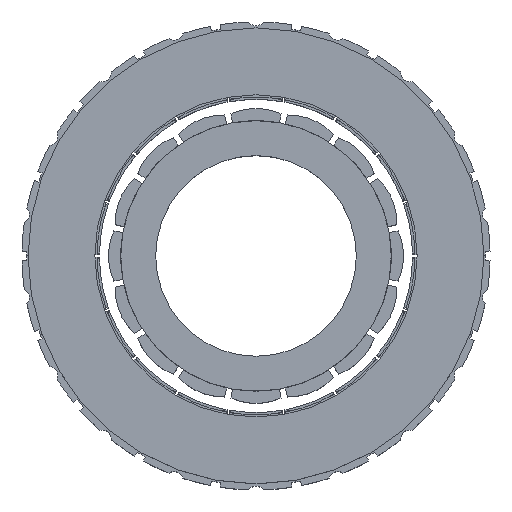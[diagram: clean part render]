
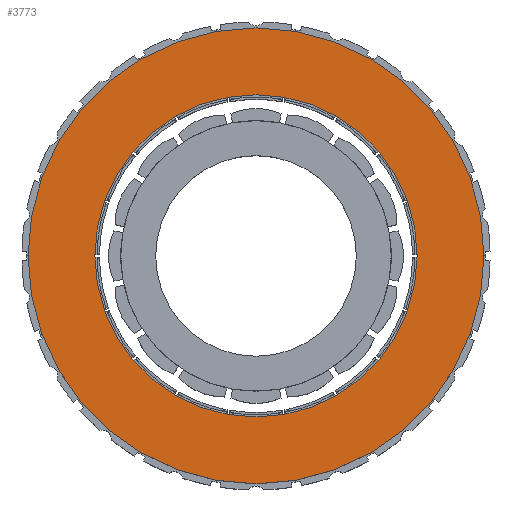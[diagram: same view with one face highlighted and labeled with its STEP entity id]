
A CAD part, top view. The second image highlights one B-rep face of the part: STEP entity #3773.
In plain terms, the highlighted planar face has unit normal (0, 0, 1).
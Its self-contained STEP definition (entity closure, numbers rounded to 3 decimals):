
#1 = CARTESIAN_POINT ( 'NONE',  ( 0., 0., 6.5 ) ) ;
#20 = DIRECTION ( 'NONE',  ( 0., 0., 1. ) ) ;
#45 = CIRCLE ( 'NONE', #4743, 37.5 ) ;
#64 = CARTESIAN_POINT ( 'NONE',  ( 26.5, 0., 6.5 ) ) ;
#460 = FACE_BOUND ( 'NONE', #4216, .T. ) ;
#536 = DIRECTION ( 'NONE',  ( 1., 0., 0. ) ) ;
#580 = CIRCLE ( 'NONE', #4035, 37.5 ) ;
#586 = ORIENTED_EDGE ( 'NONE', *, *, #3466, .T. ) ;
#759 = VERTEX_POINT ( 'NONE', #64 ) ;
#862 = CARTESIAN_POINT ( 'NONE',  ( 0., 0., 6.5 ) ) ;
#976 = AXIS2_PLACEMENT_3D ( 'NONE', #2927, #3306, #536 ) ;
#1005 = EDGE_CURVE ( 'NONE', #3577, #759, #3964, .T. ) ;
#1100 = CARTESIAN_POINT ( 'NONE',  ( 0., 0., 6.5 ) ) ;
#1157 = DIRECTION ( 'NONE',  ( 1., 0., 0. ) ) ;
#1302 = EDGE_CURVE ( 'NONE', #759, #3577, #4522, .T. ) ;
#1459 = EDGE_CURVE ( 'NONE', #4098, #4181, #580, .T. ) ;
#1512 = AXIS2_PLACEMENT_3D ( 'NONE', #1, #3570, #1157 ) ;
#1559 = DIRECTION ( 'NONE',  ( 1., 0., 0. ) ) ;
#1872 = EDGE_LOOP ( 'NONE', ( #2813, #586 ) ) ;
#2410 = DIRECTION ( 'NONE',  ( 1., 0., 0. ) ) ;
#2503 = CARTESIAN_POINT ( 'NONE',  ( 37.5, 0., 6.5 ) ) ;
#2791 = CARTESIAN_POINT ( 'NONE',  ( 0., 0., 6.5 ) ) ;
#2813 = ORIENTED_EDGE ( 'NONE', *, *, #1459, .T. ) ;
#2875 = CARTESIAN_POINT ( 'NONE',  ( -26.5, 0., 6.5 ) ) ;
#2927 = CARTESIAN_POINT ( 'NONE',  ( 0., 0., 6.5 ) ) ;
#3050 = DIRECTION ( 'NONE',  ( 1., 0., 0. ) ) ;
#3306 = DIRECTION ( 'NONE',  ( 0., 0., 1. ) ) ;
#3466 = EDGE_CURVE ( 'NONE', #4181, #4098, #45, .T. ) ;
#3570 = DIRECTION ( 'NONE',  ( 0., 0., 1. ) ) ;
#3577 = VERTEX_POINT ( 'NONE', #2875 ) ;
#3773 = ADVANCED_FACE ( 'NONE', ( #5033, #460 ), #4319, .T. ) ;
#3935 = AXIS2_PLACEMENT_3D ( 'NONE', #1100, #4305, #3050 ) ;
#3964 = CIRCLE ( 'NONE', #976, 26.5 ) ;
#3990 = ORIENTED_EDGE ( 'NONE', *, *, #1302, .F. ) ;
#4016 = ORIENTED_EDGE ( 'NONE', *, *, #1005, .F. ) ;
#4035 = AXIS2_PLACEMENT_3D ( 'NONE', #2791, #4359, #1559 ) ;
#4060 = CARTESIAN_POINT ( 'NONE',  ( -37.5, 0., 6.5 ) ) ;
#4098 = VERTEX_POINT ( 'NONE', #4060 ) ;
#4181 = VERTEX_POINT ( 'NONE', #2503 ) ;
#4216 = EDGE_LOOP ( 'NONE', ( #4016, #3990 ) ) ;
#4305 = DIRECTION ( 'NONE',  ( 0., 0., 1. ) ) ;
#4319 = PLANE ( 'NONE',  #1512 ) ;
#4359 = DIRECTION ( 'NONE',  ( 0., 0., 1. ) ) ;
#4522 = CIRCLE ( 'NONE', #3935, 26.5 ) ;
#4743 = AXIS2_PLACEMENT_3D ( 'NONE', #862, #20, #2410 ) ;
#5033 = FACE_OUTER_BOUND ( 'NONE', #1872, .T. ) ;
